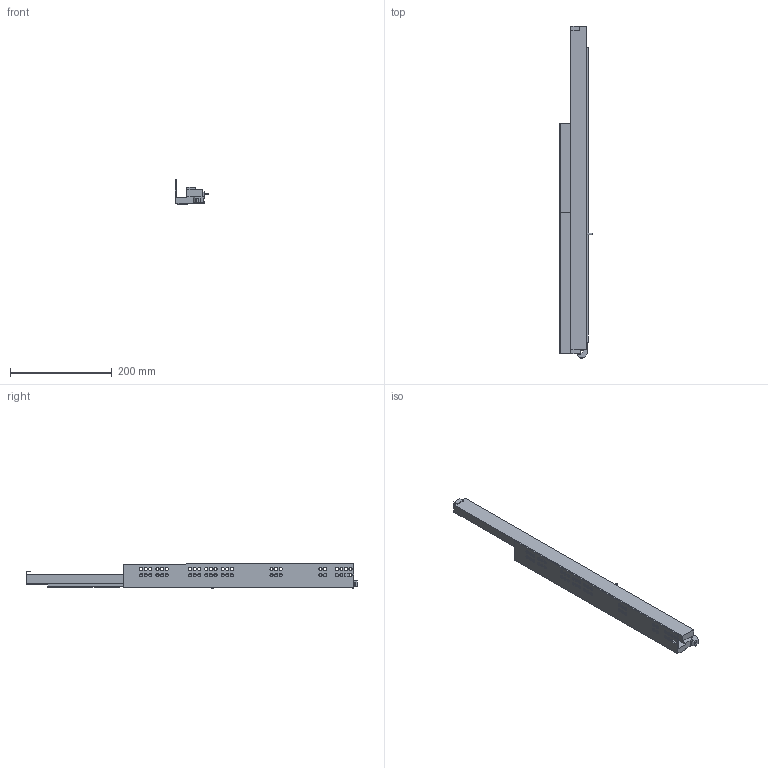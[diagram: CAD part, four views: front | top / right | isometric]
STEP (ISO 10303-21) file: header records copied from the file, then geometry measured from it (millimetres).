
FILE_DESCRIPTION (( 'STEP AP203' ), '1' );
FILE_NAME ('IMOS_Dynapro_Tipmatic_D51_NL_0_LI.STEP', '2013-03-22T11:59:24', ( 'Grass GmbH' ), ( 'Grass GmbH' ), 'SwSTEP 2.0', 'SolidWorks 2012', '' );
FILE_SCHEMA (( 'CONFIG_CONTROL_DESIGN' ));
Length unit declared in the file: millimetre
Products named in the file (1): IMOS_Dynapro_Tipmatic_D51_NL_0_LI
Bounding box: 65.92 x 651.55 x 48.48 mm (x, y, z)
Volume: 599544.6 mm3; surface area: 147446.1 mm2
Topology: 1 solids, 1 shells, 197 faces, 570 edges, 380 vertices
Faces by surface type: cylinder 101, plane 96
Entity records: 6811 total; most frequent: DIRECTION 1168, CARTESIAN_POINT 1148, ORIENTED_EDGE 1140, EDGE_CURVE 570, AXIS2_PLACEMENT_3D 400, VERTEX_POINT 380, LINE 368, VECTOR 368
